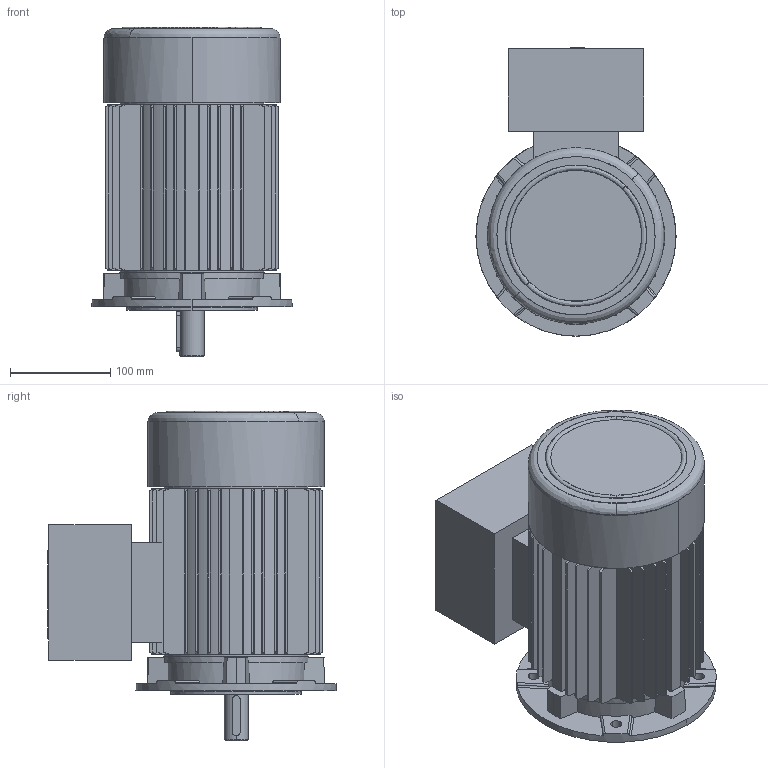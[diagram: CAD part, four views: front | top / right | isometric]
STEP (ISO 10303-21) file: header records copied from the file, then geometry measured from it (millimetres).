
FILE_DESCRIPTION (( 'STEP AP214' ), '1' );
FILE_NAME ('20.17499-B 5AT 90 B5 Exde STANDK.STEP', '2018-05-08T05:58:22', ( '' ), ( '' ), 'SwSTEP 2.0', 'SolidWorks 2017', '' );
FILE_SCHEMA (( 'AUTOMOTIVE_DESIGN' ));
Length unit declared in the file: millimetre
Products named in the file (1): 20.17499-B 5AT 90 B5 Exde STANDK
Bounding box: 199.9 x 287.95 x 329 mm (x, y, z)
Volume: 3831087.1 mm3; surface area: 718865.2 mm2
Topology: 4 solids, 12 shells, 755 faces, 1932 edges, 1249 vertices
Faces by surface type: plane 323, cylinder 219, cone 155, bspline 58
Entity records: 32158 total; most frequent: CARTESIAN_POINT 7851, ORIENTED_EDGE 3832, DIRECTION 3593, EDGE_CURVE 1916, AXIS2_PLACEMENT_3D 1345, VERTEX_POINT 1249, VECTOR 903, LINE 903
